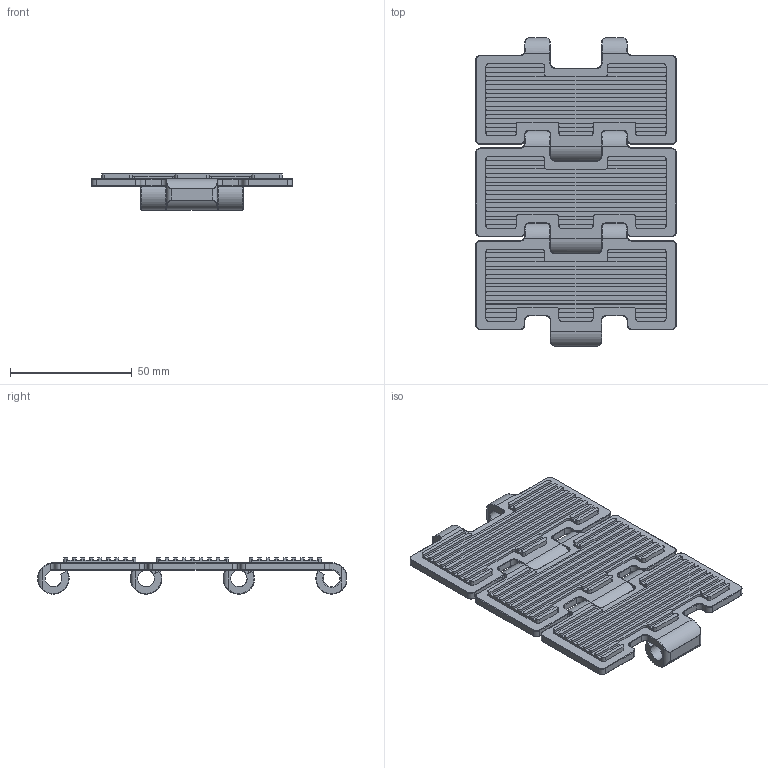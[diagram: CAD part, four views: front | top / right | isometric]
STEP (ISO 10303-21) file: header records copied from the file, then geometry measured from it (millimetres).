
FILE_DESCRIPTION(('CATIA V5 STEP Exchange'),'2;1');
FILE_NAME('X:\P10020102_01.stp','2016-10-21T13:02:06+00:00',('none'),('none'),'Version 5-6 Release 2012','CATIA V5 STEP AP203','none');
FILE_SCHEMA(('CONFIG_CONTROL_DESIGN'));
Length unit declared in the file: millimetre
Products named in the file (1): P10020102_01
Bounding box: 82.55 x 126.7 x 14.9 mm (x, y, z)
Volume: 43997.6 mm3; surface area: 41804.3 mm2
Topology: 4 solids, 4 shells, 862 faces, 2306 edges, 1432 vertices
Faces by surface type: cylinder 393, plane 295, torus 132, bspline 42
Entity records: 30606 total; most frequent: CARTESIAN_POINT 10667, ORIENTED_EDGE 4612, DIRECTION 3300, EDGE_CURVE 2306, AXIS2_PLACEMENT_3D 1530, VERTEX_POINT 1432, VECTOR 1190, LINE 1190
